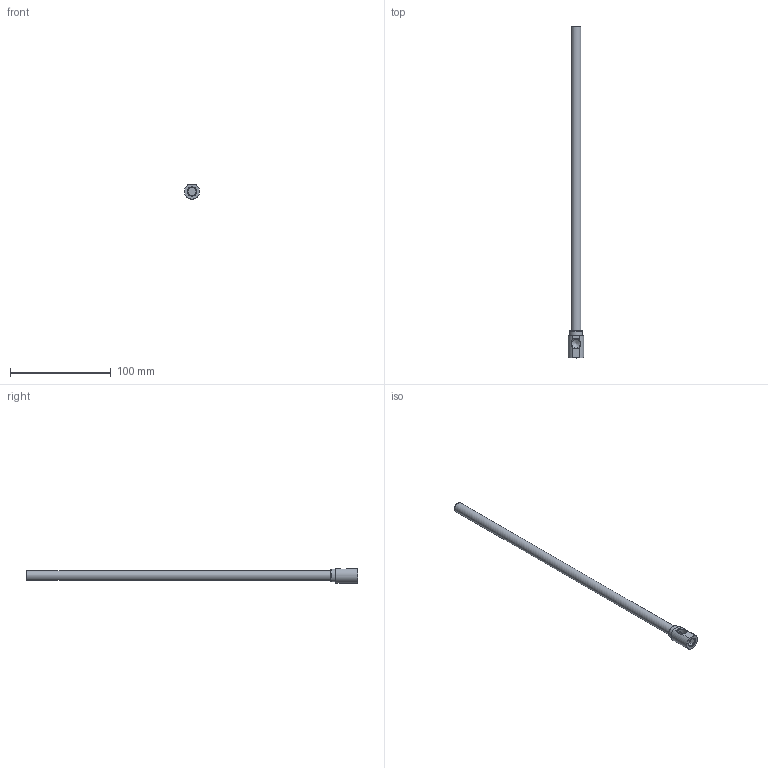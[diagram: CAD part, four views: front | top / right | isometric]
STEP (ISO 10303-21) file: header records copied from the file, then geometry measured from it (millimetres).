
FILE_DESCRIPTION(/* description */ (''),/* implementation_level */ '2;1');
FILE_NAME(/* name */ 'C:/Users/drich/Desktop/EKL18 X 13 v2.step',/* time_stamp */ '2019-11-18T14:40:39-06:00',/* author */ (''),/* organization */ (''),/* preprocessor_version */ 'ST-DEVELOPER v18',/* originating_system */ 'Autodesk Translation Framework v8.12.0.6',/* authorisation */ '');
FILE_SCHEMA (('AUTOMOTIVE_DESIGN { 1 0 10303 214 3 1 1 }'));
Length unit declared in the file: inch
Products named in the file (2): EKL18 X 13; EKL18 X 13_1
Assembly tree (1 placements, depth 2):
  EKL18 X 13
    EKL18 X 13_1
Bounding box: 15.49 x 330.2 x 14.48 mm (x, y, z)
Volume: 16452.7 mm3; surface area: 17603.3 mm2
Topology: 1 solids, 1 shells, 30 faces, 80 edges, 55 vertices
Faces by surface type: plane 16, cone 8, cylinder 6
Full cylindrical faces by diameter (mm): 6.35 x1, 9.004 x1, 9.398 x1, 9.794 x1, 12.7 x1
Entity records: 1047 total; most frequent: CARTESIAN_POINT 256, ORIENTED_EDGE 158, DIRECTION 151, EDGE_CURVE 79, AXIS2_PLACEMENT_3D 60, VERTEX_POINT 55, EDGE_LOOP 36, LINE 31
